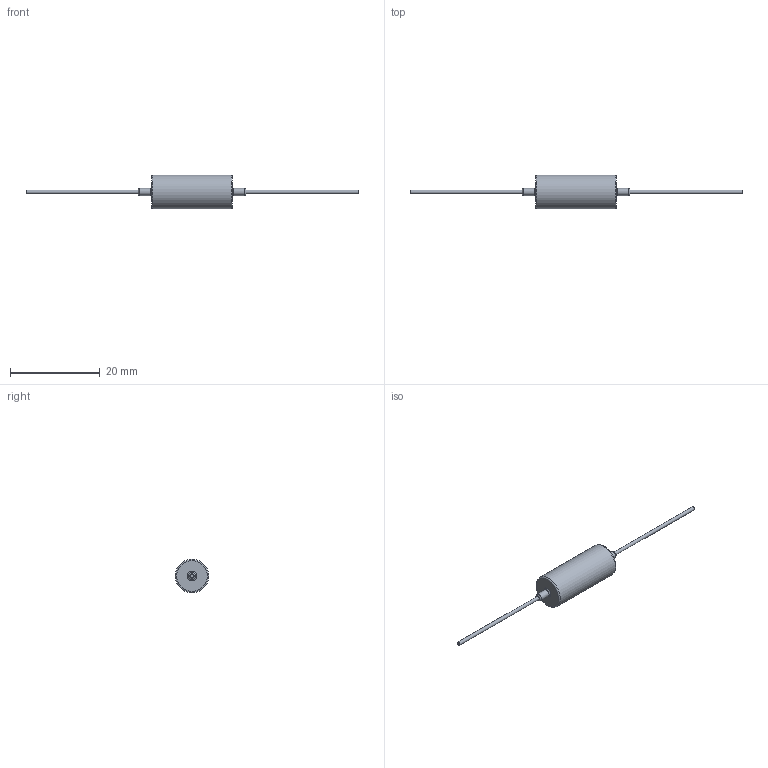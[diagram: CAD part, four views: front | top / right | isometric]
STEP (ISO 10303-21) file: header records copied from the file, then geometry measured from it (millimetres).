
FILE_DESCRIPTION((''),'2;1');
FILE_NAME('P:\Work\User\Special\CAD\Widerstand Serien\AC-Serie\axiale Ausführung\AC0500000XXXJAC00.stp','2015-10-26T07:36:12',('klepschi'),(''),'Autodesk Inventor 2013','Autodesk Inventor 2013','');
FILE_SCHEMA(('AUTOMOTIVE_DESIGN { 1 0 10303 214 1 1 1 1 }'));
Length unit declared in the file: millimetre
Products named in the file (1): AC0500000XXXJAC00
Bounding box: 74 x 7.5 x 7.5 mm (x, y, z)
Volume: 831.6 mm3; surface area: 659.6 mm2
Topology: 1 solids, 1 shells, 17 faces, 27 edges, 16 vertices
Faces by surface type: torus 6, plane 6, cylinder 5
Full cylindrical faces by diameter (mm): 0.8 x2, 1.6 x2, 7.5 x1
Entity records: 380 total; most frequent: DIRECTION 68, CARTESIAN_POINT 50, AXIS2_PLACEMENT_3D 34, ORIENTED_EDGE 32, EDGE_LOOP 32, FACE_OUTER_BOUND 17, ADVANCED_FACE 17, VERTEX_POINT 16
